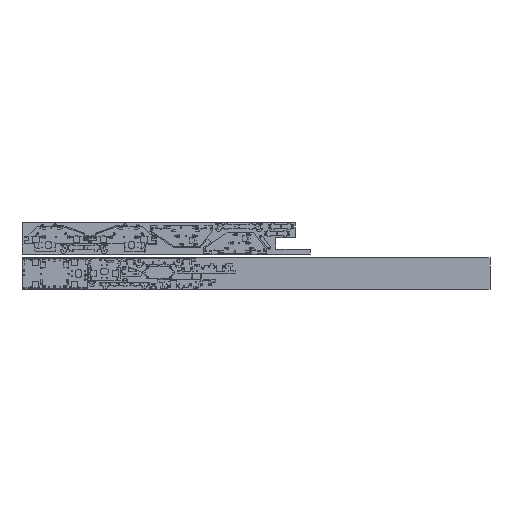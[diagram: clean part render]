
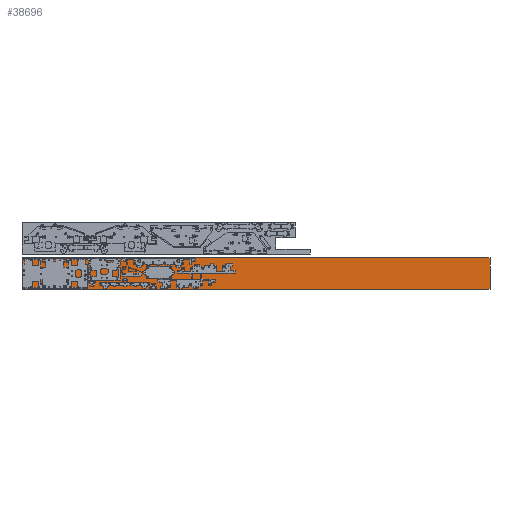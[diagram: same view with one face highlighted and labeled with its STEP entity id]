
A CAD part, top view. The second image highlights one B-rep face of the part: STEP entity #38696.
In plain terms, the highlighted planar face has unit normal (0, 0, 1).
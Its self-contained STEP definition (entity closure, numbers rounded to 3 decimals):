
#1205=PLANE('',#41919);
#2660=FACE_OUTER_BOUND('',#4965,.T.);
#4965=EDGE_LOOP('',(#30280,#30281,#30282,#30283));
#9945=LINE('',#61133,#13615);
#9949=LINE('',#61141,#13619);
#9952=LINE('',#61147,#13622);
#9955=LINE('',#61152,#13625);
#13615=VECTOR('',#49394,10.);
#13619=VECTOR('',#49400,10.);
#13622=VECTOR('',#49405,10.);
#13625=VECTOR('',#49410,10.);
#17428=VERTEX_POINT('',#61131);
#17429=VERTEX_POINT('',#61132);
#17432=VERTEX_POINT('',#61140);
#17434=VERTEX_POINT('',#61146);
#22074=EDGE_CURVE('',#17428,#17429,#9945,.T.);
#22078=EDGE_CURVE('',#17429,#17432,#9949,.T.);
#22081=EDGE_CURVE('',#17432,#17434,#9952,.T.);
#22084=EDGE_CURVE('',#17434,#17428,#9955,.T.);
#30280=ORIENTED_EDGE('',*,*,#22084,.T.);
#30281=ORIENTED_EDGE('',*,*,#22074,.T.);
#30282=ORIENTED_EDGE('',*,*,#22078,.T.);
#30283=ORIENTED_EDGE('',*,*,#22081,.T.);
#38696=ADVANCED_FACE('',(#2660),#1205,.T.);
#41919=AXIS2_PLACEMENT_3D('',#61154,#49412,#49413);
#49394=DIRECTION('',(1.,0.,0.));
#49400=DIRECTION('',(0.,1.,0.));
#49405=DIRECTION('',(-1.,0.,0.));
#49410=DIRECTION('',(0.,-1.,0.));
#49412=DIRECTION('center_axis',(0.,0.,1.));
#49413=DIRECTION('ref_axis',(1.,0.,0.));
#61131=CARTESIAN_POINT('',(230.583,192.455,0.));
#61132=CARTESIAN_POINT('',(3230.583,192.455,0.));
#61133=CARTESIAN_POINT('',(230.583,192.455,0.));
#61140=CARTESIAN_POINT('',(3230.583,392.455,0.));
#61141=CARTESIAN_POINT('',(3230.583,192.455,0.));
#61146=CARTESIAN_POINT('',(230.583,392.455,0.));
#61147=CARTESIAN_POINT('',(3230.583,392.455,0.));
#61152=CARTESIAN_POINT('',(230.583,392.455,0.));
#61154=CARTESIAN_POINT('Origin',(1730.583,292.455,0.));
